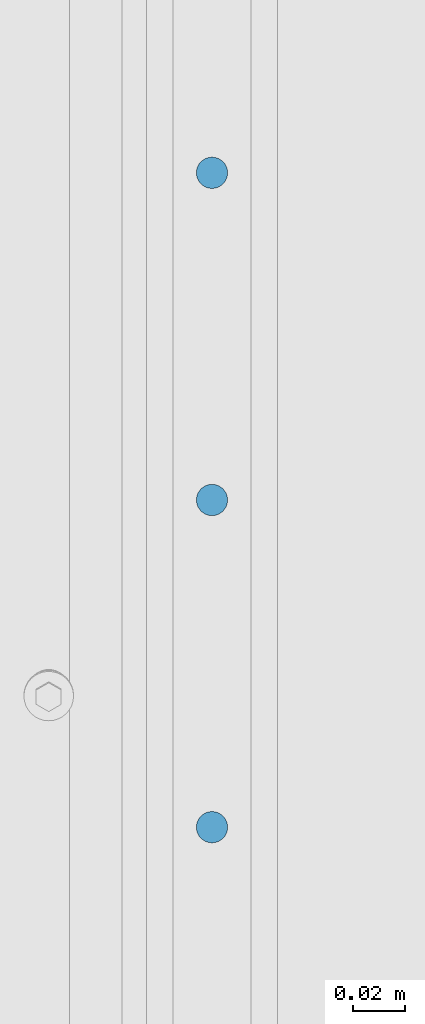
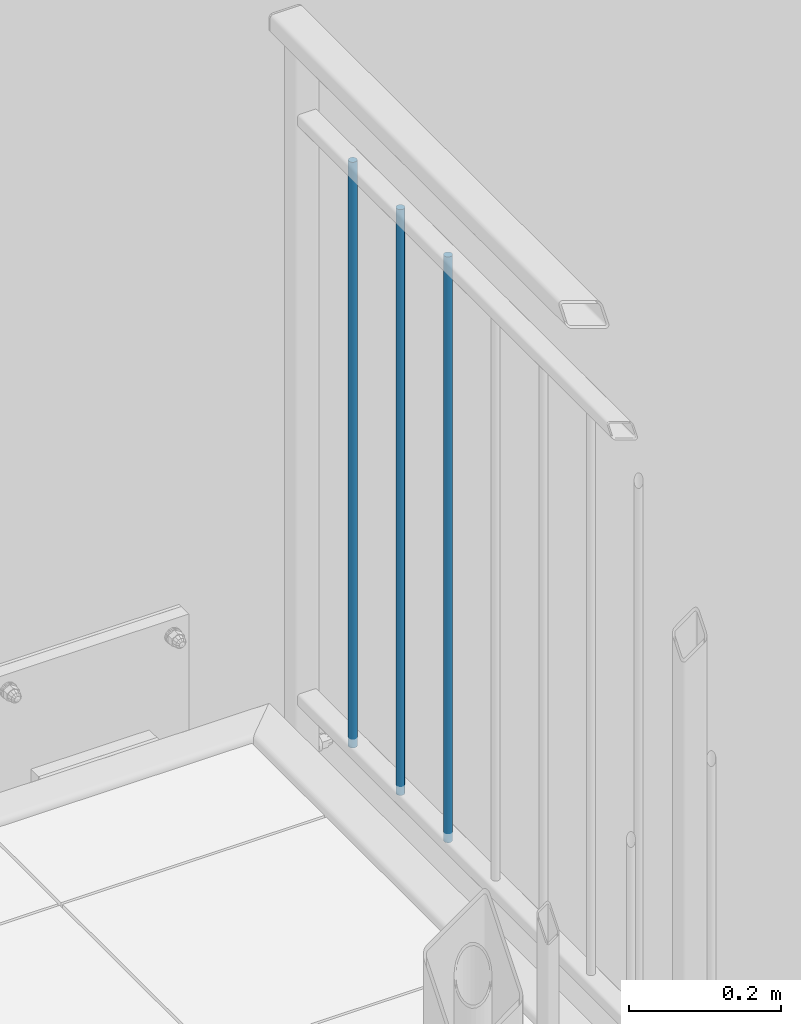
# One storey, part 33 of 162: 3 columns.
"""IFC2X3 building model written with IfcOpenShell, lengths in millimetres."""

from ifc_helpers import new_model, entity, si_unit, converted_unit, frame, origin, origin_with_axes, origin_2d, place, context, project, spatial, circle, extrude, material, element, save


model = new_model("IFC2X3")

# Units and contexts
model_context = context("Model", 3, precision=1e-09, world=origin_with_axes())
ifc_project = project(units=[si_unit("LENGTHUNIT", "METRE", prefix="MILLI"), si_unit("AREAUNIT", "SQUARE_METRE"), si_unit("VOLUMEUNIT", "CUBIC_METRE"), converted_unit("PLANEANGLEUNIT", "DEGREE", entity("IfcPlaneAngleMeasure", 0.01745329), si_unit("PLANEANGLEUNIT", "RADIAN"), dimensions=[0, 0, 0, 0, 0, 0, 0])], contexts=[model_context])

# Site, building, storey
site_placement = place(None, origin_with_axes())
site = spatial("IfcSite", under=ifc_project, at=site_placement, Name="Hermannstra?e 1a, 60318 Frankfurt", CompositionType="ELEMENT")
building_placement = place(site_placement, origin_with_axes())
building = spatial("IfcBuilding", under=site, at=building_placement, Name="Struktur 1", CompositionType="ELEMENT")
storey_placement = place(building_placement, origin_with_axes())
storey = spatial("IfcBuildingStorey", under=building, at=storey_placement, Name="Default Storey", CompositionType="ELEMENT", Elevation=0.0)

# Columns
ifc_material = material(Name="S235JR")
for number, where, z_axis, x_axis in (
    (1, (5848.30936482, 2496.359373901, 11504.999), (0.0, 0.0, -1.0), (0.0, -1.0, 0.0)),
    (2, (5848.30936482, 2371.109373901, 11504.999), (0.0, 0.0, -1.0), (0.0, -1.0, 0.0)),
    (3, (5848.30936482, 2245.859373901, 11504.999), (0.0, 0.0, -1.0), (0.0, -1.0, 0.0)),
):
    element("IfcColumn", number, at=place(None, frame(where, z_axis=z_axis, x_axis=x_axis)), inside=storey, material=ifc_material, Name="-", ObjectType="-", context=model_context, shape_type="SweptSolid", body=[
        extrude(circle(Radius=6.0, at=origin_2d()), origin(), (0.0, 0.0, -1.0), 940.0),
    ])

save(model, "model.ifc")
